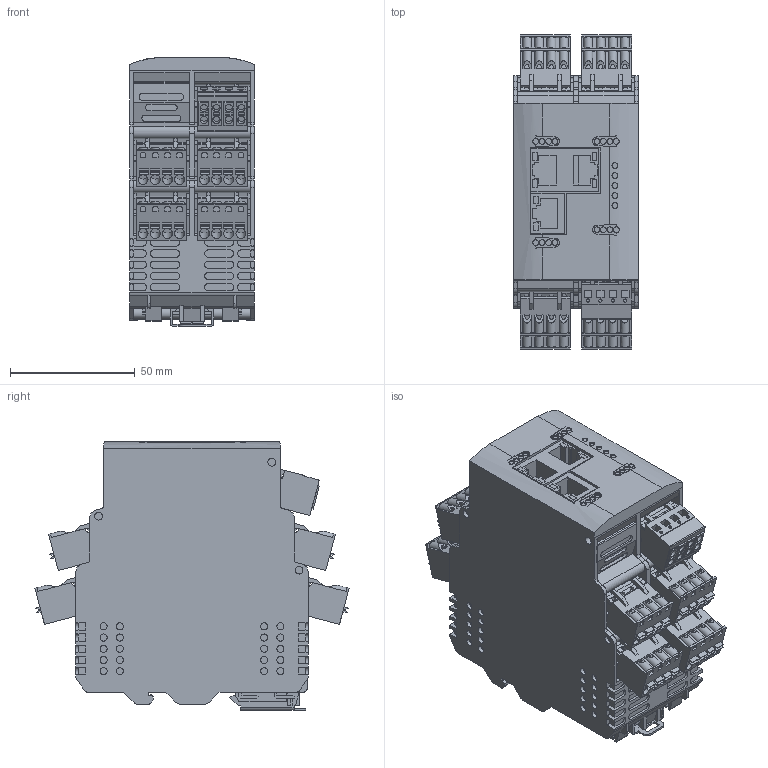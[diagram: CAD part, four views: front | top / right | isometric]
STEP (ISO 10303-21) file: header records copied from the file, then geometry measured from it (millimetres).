
FILE_DESCRIPTION( ( 'STEP AP203' ), ' ' );
FILE_NAME( 'p:/temp/worker_158/4476_3300/app_61_02018010313461519731856192d056f_000000_00_00_000000/format_3/AL1930.stp', '2018-01-03T12:47:05', ( '' ), ( '' ), ' ', 'PARTsolutions', ' ' );
FILE_SCHEMA( ( 'CONFIG_CONTROL_DESIGN' ) );
Length unit declared in the file: millimetre
Products named in the file (1): _AL1930
Bounding box: 50 x 126.1 x 107.8 mm (x, y, z)
Volume: 446830.2 mm3; surface area: 78154.2 mm2
Topology: 1 solids, 1 shells, 2370 faces, 6638 edges, 4414 vertices
Faces by surface type: plane 1933, cylinder 430, torus 7
Full cylindrical faces by diameter (mm): 1.3 x4, 1.4 x7, 2.3 x21, 2.84 x40, 3 x8, 3.1 x6, 4 x32
Entity records: 75458 total; most frequent: CARTESIAN_POINT 13626, ORIENTED_EDGE 13018, DIRECTION 12214, EDGE_CURVE 6509, LINE 5506, VECTOR 5506, VERTEX_POINT 4416, AXIS2_PLACEMENT_3D 3354
